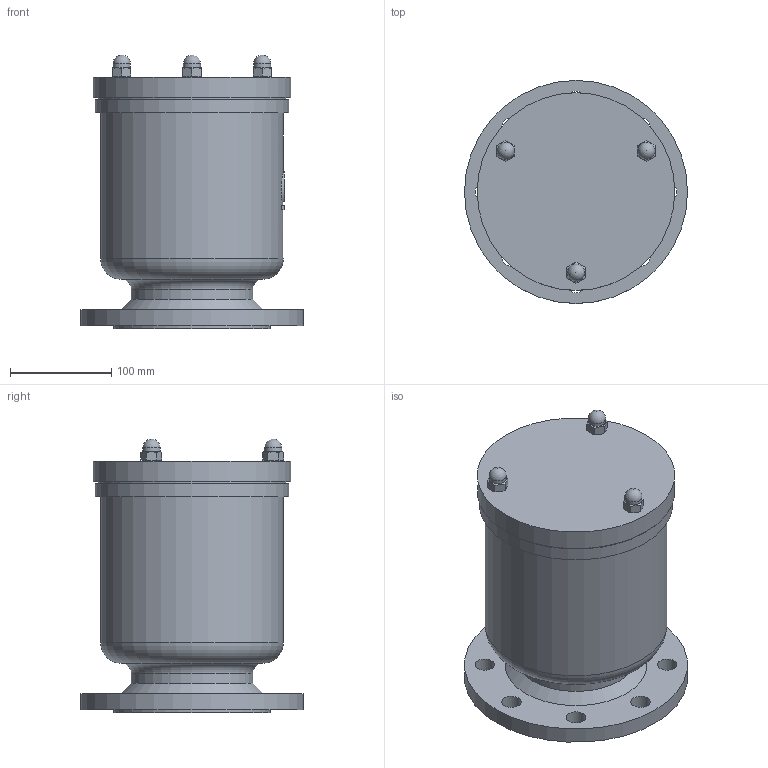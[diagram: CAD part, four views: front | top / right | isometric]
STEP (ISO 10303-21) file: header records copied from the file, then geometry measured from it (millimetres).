
FILE_DESCRIPTION(('STEP AP203'), '1');
FILE_NAME('A10F.Z DN100', '', ('UNSPECIFIED'), ('UNSPECIFIED'), 'ASCON STEP Converter 1.6', 'ASCON Math Kernel', '');
FILE_SCHEMA(('CONFIG_CONTROL_DESIGN'));
Length unit declared in the file: millimetre
Products named in the file (2): A10F.Z DN100
Assembly tree (3 placements, depth 2):
  A10F.Z DN100
    (unnamed)  x3
Bounding box: 220 x 220 x 270 mm (x, y, z)
Volume: 4427263.6 mm3; surface area: 324128.1 mm2
Topology: 1 solids, 4 shells, 89 faces, 197 edges, 126 vertices
Faces by surface type: plane 42, cylinder 29, cone 13, sphere 3, torus 2
Full cylindrical faces by diameter (mm): 10.106 x3, 17 x3, 19 x8, 100 x1, 120 x1, 154 x1, 180 x1, 185 x1, 191 x1, 195 x1, 220 x1
Entity records: 5187 total; most frequent: CARTESIAN_POINT 2567, DIRECTION 357, ORIENTED_EDGE 302, AXIS2_PLACEMENT_3D 158, EDGE_LOOP 154, EDGE_CURVE 151, VERTEX_POINT 119, COLOUR_RGB 91
